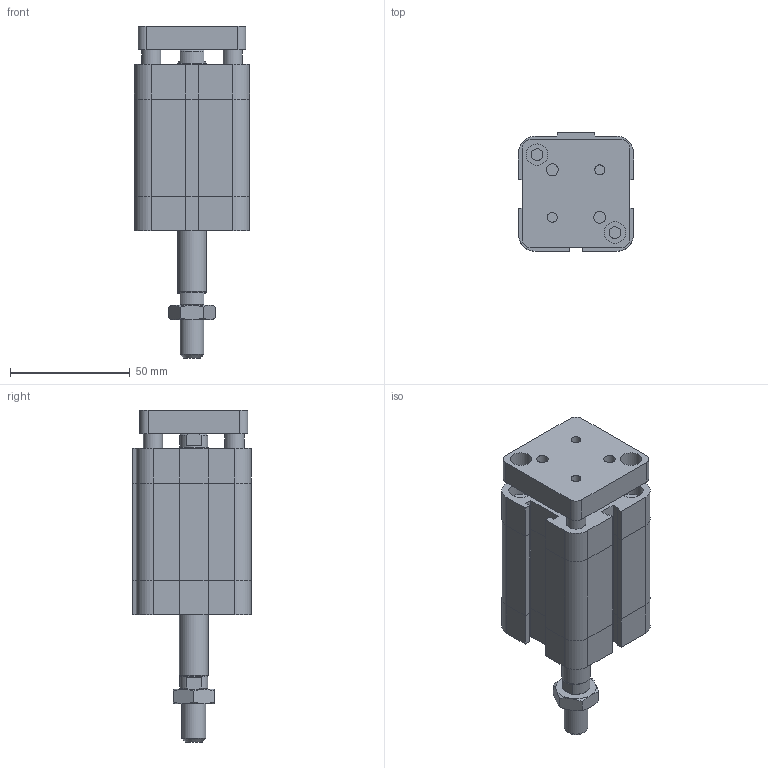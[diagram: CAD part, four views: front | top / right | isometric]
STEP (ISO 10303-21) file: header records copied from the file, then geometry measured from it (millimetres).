
FILE_DESCRIPTION((''),'2;1');
FILE_NAME('I:\Area Tecnica\Disegni\VARIE-3D\Componenti\EUROPE\15##_###_####_09_#\1561_32_0025_09_1.iam.stp','2009-04-20T15:35:56',(''),(''),'Autodesk Inventor 2009','Autodesk Inventor 2009','');
FILE_SCHEMA(('AUTOMOTIVE_DESIGN { 1 0 10303 214 1 1 1 1 }'));
Length unit declared in the file: millimetre
Products named in the file (4): 1561_32_0025_09_1; 1561_32_0025_08_1_C; 1561_32_0025_09_1_SA; DBFM10
Assembly tree (3 placements, depth 2):
  1561_32_0025_09_1
    1561_32_0025_08_1_C
    1561_32_0025_09_1_SA
    DBFM10
Bounding box: 48 x 49.5 x 138.5 mm (x, y, z)
Volume: 168914 mm3; surface area: 40701.8 mm2
Topology: 3 solids, 3 shells, 209 faces, 470 edges, 287 vertices
Faces by surface type: plane 120, bspline 45, cylinder 23, cone 21
Full cylindrical faces by diameter (mm): 8 x2, 8.8 x1, 10 x1, 11.7 x2, 12 x1
Entity records: 5963 total; most frequent: CARTESIAN_POINT 1453, DIRECTION 838, ORIENTED_EDGE 834, EDGE_CURVE 417, AXIS2_PLACEMENT_3D 282, EDGE_LOOP 282, VECTOR 274, LINE 274
